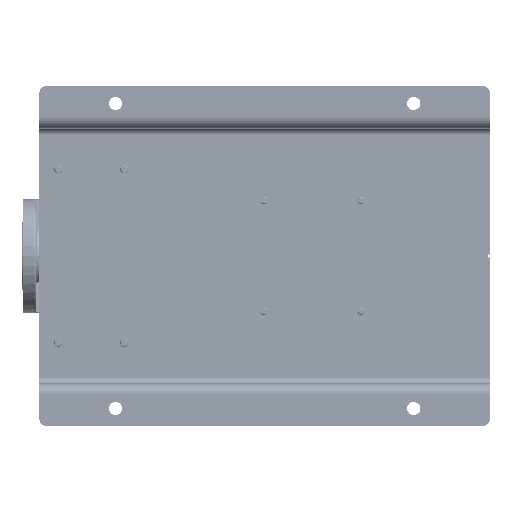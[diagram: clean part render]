
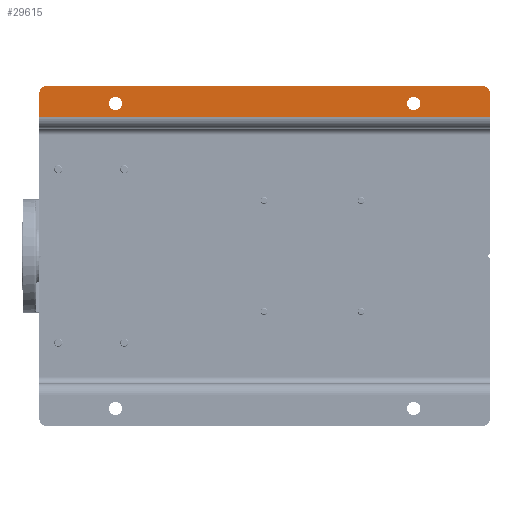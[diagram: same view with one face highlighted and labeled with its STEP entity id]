
A CAD part, front view. The second image highlights one B-rep face of the part: STEP entity #29615.
In plain terms, the highlighted planar face has unit normal (0, -1, 0).
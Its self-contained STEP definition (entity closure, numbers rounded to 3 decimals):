
#4138 = CARTESIAN_POINT ( 'NONE',  ( 490., 0., -640. ) ) ;
#7232 = VECTOR ( 'NONE', #105027, 1000. ) ;
#12035 = DIRECTION ( 'NONE',  ( 0., 0., -1. ) ) ;
#18344 = DIRECTION ( 'NONE',  ( 0., -1., 0. ) ) ;
#19164 = VECTOR ( 'NONE', #83939, 1000. ) ;
#19263 = PLANE ( 'NONE',  #109282 ) ;
#19637 = EDGE_LOOP ( 'NONE', ( #163555, #112373 ) ) ;
#20068 = EDGE_LOOP ( 'NONE', ( #91637, #33058 ) ) ;
#22429 = AXIS2_PLACEMENT_3D ( 'NONE', #151404, #82062, #24827 ) ;
#24642 = ORIENTED_EDGE ( 'NONE', *, *, #25289, .T. ) ;
#24827 = DIRECTION ( 'NONE',  ( 0., 0., -1. ) ) ;
#25289 = EDGE_CURVE ( 'NONE', #90778, #33755, #80258, .T. ) ;
#27606 = CARTESIAN_POINT ( 'NONE',  ( 429., 0., -650. ) ) ;
#27920 = ORIENTED_EDGE ( 'NONE', *, *, #134868, .F. ) ;
#29119 = EDGE_CURVE ( 'NONE', #33755, #41685, #62056, .T. ) ;
#29297 = CARTESIAN_POINT ( 'NONE',  ( 455.5, 0., -540. ) ) ;
#29615 = ADVANCED_FACE ( 'NONE', ( #88551, #144962, #147649 ), #19263, .T. ) ;
#30491 = AXIS2_PLACEMENT_3D ( 'NONE', #138642, #178438, #12035 ) ;
#33058 = ORIENTED_EDGE ( 'NONE', *, *, #59535, .T. ) ;
#33755 = VERTEX_POINT ( 'NONE', #115665 ) ;
#33807 = VERTEX_POINT ( 'NONE', #153659 ) ;
#34265 = CARTESIAN_POINT ( 'NONE',  ( 480., 0., -640. ) ) ;
#35420 = CARTESIAN_POINT ( 'NONE',  ( 445., 0., -650. ) ) ;
#35751 = EDGE_CURVE ( 'NONE', #33807, #144712, #77938, .T. ) ;
#38924 = DIRECTION ( 'NONE',  ( 0., 1., 0. ) ) ;
#40400 = VERTEX_POINT ( 'NONE', #110639 ) ;
#41685 = VERTEX_POINT ( 'NONE', #4138 ) ;
#48799 = DIRECTION ( 'NONE',  ( 0., 0., -1. ) ) ;
#49983 = DIRECTION ( 'NONE',  ( 0., 0., -1. ) ) ;
#56447 = CARTESIAN_POINT ( 'NONE',  ( 465., 0., -540. ) ) ;
#57253 = VERTEX_POINT ( 'NONE', #178533 ) ;
#59535 = EDGE_CURVE ( 'NONE', #57253, #131675, #60295, .T. ) ;
#60295 = CIRCLE ( 'NONE', #89680, 9.5 ) ;
#62056 = CIRCLE ( 'NONE', #65084, 10. ) ;
#63122 = DIRECTION ( 'NONE',  ( 0., 0., 1. ) ) ;
#65084 = AXIS2_PLACEMENT_3D ( 'NONE', #34265, #116509, #91464 ) ;
#65613 = CARTESIAN_POINT ( 'NONE',  ( 445., 0., 0. ) ) ;
#69666 = CIRCLE ( 'NONE', #22429, 9.5 ) ;
#75209 = LINE ( 'NONE', #105601, #92456 ) ;
#75912 = CARTESIAN_POINT ( 'NONE',  ( 465., 0., -110. ) ) ;
#77938 = CIRCLE ( 'NONE', #136924, 9.5 ) ;
#80258 = LINE ( 'NONE', #27606, #19164 ) ;
#82062 = DIRECTION ( 'NONE',  ( 0., 1., 0. ) ) ;
#82654 = EDGE_LOOP ( 'NONE', ( #27920, #99101, #24642, #96291, #163631, #100305 ) ) ;
#83939 = DIRECTION ( 'NONE',  ( 1., 0., 0. ) ) ;
#88551 = FACE_BOUND ( 'NONE', #20068, .T. ) ;
#89680 = AXIS2_PLACEMENT_3D ( 'NONE', #75912, #103607, #49983 ) ;
#90603 = CARTESIAN_POINT ( 'NONE',  ( 490., 0., -10. ) ) ;
#90778 = VERTEX_POINT ( 'NONE', #35420 ) ;
#90832 = DIRECTION ( 'NONE',  ( 0., 0., -1. ) ) ;
#91464 = DIRECTION ( 'NONE',  ( 0., 0., -1. ) ) ;
#91637 = ORIENTED_EDGE ( 'NONE', *, *, #107951, .T. ) ;
#92456 = VECTOR ( 'NONE', #63122, 1000. ) ;
#96291 = ORIENTED_EDGE ( 'NONE', *, *, #29119, .T. ) ;
#99101 = ORIENTED_EDGE ( 'NONE', *, *, #110326, .T. ) ;
#100305 = ORIENTED_EDGE ( 'NONE', *, *, #154507, .T. ) ;
#103607 = DIRECTION ( 'NONE',  ( 0., 1., 0. ) ) ;
#103915 = VERTEX_POINT ( 'NONE', #90603 ) ;
#104115 = LINE ( 'NONE', #176204, #7232 ) ;
#105027 = DIRECTION ( 'NONE',  ( 1., 0., 0. ) ) ;
#105601 = CARTESIAN_POINT ( 'NONE',  ( 490., 0., -650. ) ) ;
#107660 = VECTOR ( 'NONE', #174037, 1000. ) ;
#107951 = EDGE_CURVE ( 'NONE', #131675, #57253, #110060, .T. ) ;
#109282 = AXIS2_PLACEMENT_3D ( 'NONE', #131972, #18344, #48799 ) ;
#110060 = CIRCLE ( 'NONE', #30491, 9.5 ) ;
#110326 = EDGE_CURVE ( 'NONE', #151661, #90778, #161077, .T. ) ;
#110639 = CARTESIAN_POINT ( 'NONE',  ( 480., 0., 0. ) ) ;
#111775 = AXIS2_PLACEMENT_3D ( 'NONE', #117642, #118536, #90832 ) ;
#112373 = ORIENTED_EDGE ( 'NONE', *, *, #35751, .T. ) ;
#115665 = CARTESIAN_POINT ( 'NONE',  ( 480., 0., -650. ) ) ;
#116509 = DIRECTION ( 'NONE',  ( 0., -1., 0. ) ) ;
#117599 = CARTESIAN_POINT ( 'NONE',  ( 445., 0., -650. ) ) ;
#117642 = CARTESIAN_POINT ( 'NONE',  ( 480., 0., -10. ) ) ;
#118536 = DIRECTION ( 'NONE',  ( 0., -1., 0. ) ) ;
#120567 = CIRCLE ( 'NONE', #111775, 10. ) ;
#131328 = EDGE_CURVE ( 'NONE', #41685, #103915, #75209, .T. ) ;
#131675 = VERTEX_POINT ( 'NONE', #164098 ) ;
#131972 = CARTESIAN_POINT ( 'NONE',  ( 429., 0., -650. ) ) ;
#134868 = EDGE_CURVE ( 'NONE', #151661, #40400, #104115, .T. ) ;
#136924 = AXIS2_PLACEMENT_3D ( 'NONE', #56447, #38924, #180319 ) ;
#137019 = EDGE_CURVE ( 'NONE', #144712, #33807, #69666, .T. ) ;
#138642 = CARTESIAN_POINT ( 'NONE',  ( 465., 0., -110. ) ) ;
#144712 = VERTEX_POINT ( 'NONE', #29297 ) ;
#144962 = FACE_BOUND ( 'NONE', #19637, .T. ) ;
#147649 = FACE_OUTER_BOUND ( 'NONE', #82654, .T. ) ;
#151404 = CARTESIAN_POINT ( 'NONE',  ( 465., 0., -540. ) ) ;
#151661 = VERTEX_POINT ( 'NONE', #65613 ) ;
#153659 = CARTESIAN_POINT ( 'NONE',  ( 474.5, 0., -540. ) ) ;
#154507 = EDGE_CURVE ( 'NONE', #103915, #40400, #120567, .T. ) ;
#161077 = LINE ( 'NONE', #117599, #107660 ) ;
#163555 = ORIENTED_EDGE ( 'NONE', *, *, #137019, .T. ) ;
#163631 = ORIENTED_EDGE ( 'NONE', *, *, #131328, .T. ) ;
#164098 = CARTESIAN_POINT ( 'NONE',  ( 455.5, 0., -110. ) ) ;
#174037 = DIRECTION ( 'NONE',  ( 0., 0., -1. ) ) ;
#176204 = CARTESIAN_POINT ( 'NONE',  ( 429., 0., 0. ) ) ;
#178438 = DIRECTION ( 'NONE',  ( 0., 1., 0. ) ) ;
#178533 = CARTESIAN_POINT ( 'NONE',  ( 474.5, 0., -110. ) ) ;
#180319 = DIRECTION ( 'NONE',  ( 0., 0., -1. ) ) ;
